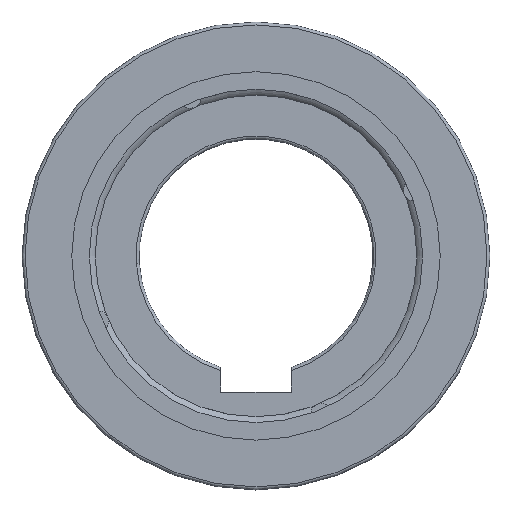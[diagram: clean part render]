
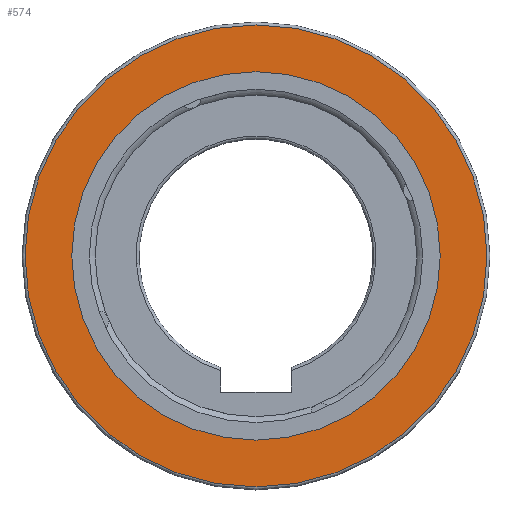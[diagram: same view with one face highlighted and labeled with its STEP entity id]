
A CAD part, top view. The second image highlights one B-rep face of the part: STEP entity #574.
In plain terms, the highlighted planar face has unit normal (0, 0, 1).
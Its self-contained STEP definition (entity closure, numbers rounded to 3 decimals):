
#521=PLANE('',#1417);
#574=ADVANCED_FACE('',(#669,#670),#521,.T.);
#669=FACE_BOUND('',#730,.T.);
#670=FACE_BOUND('',#731,.T.);
#730=EDGE_LOOP('',(#843));
#731=EDGE_LOOP('',(#844));
#843=ORIENTED_EDGE('',*,*,#1213,.T.);
#844=ORIENTED_EDGE('',*,*,#1209,.F.);
#1107=VERTEX_POINT('',#1973);
#1111=VERTEX_POINT('',#1983);
#1209=EDGE_CURVE('',#1107,#1107,#1341,.T.);
#1213=EDGE_CURVE('',#1111,#1111,#1345,.T.);
#1341=CIRCLE('',#1410,31.5);
#1345=CIRCLE('',#1416,39.5);
#1410=AXIS2_PLACEMENT_3D('',#1972,#1565,#1566);
#1416=AXIS2_PLACEMENT_3D('',#1982,#1577,#1578);
#1417=AXIS2_PLACEMENT_3D('',#1984,#1579,#1580);
#1565=DIRECTION('',(0.,0.,1.));
#1566=DIRECTION('',(1.,0.,0.));
#1577=DIRECTION('',(0.,0.,1.));
#1578=DIRECTION('',(1.,0.,0.));
#1579=DIRECTION('',(0.,0.,1.));
#1580=DIRECTION('',(1.,0.,0.));
#1972=CARTESIAN_POINT('',(0.,0.,18.));
#1973=CARTESIAN_POINT('',(31.5,0.,18.));
#1982=CARTESIAN_POINT('',(0.,0.,18.));
#1983=CARTESIAN_POINT('',(39.5,0.,18.));
#1984=CARTESIAN_POINT('',(0.,0.,18.));
